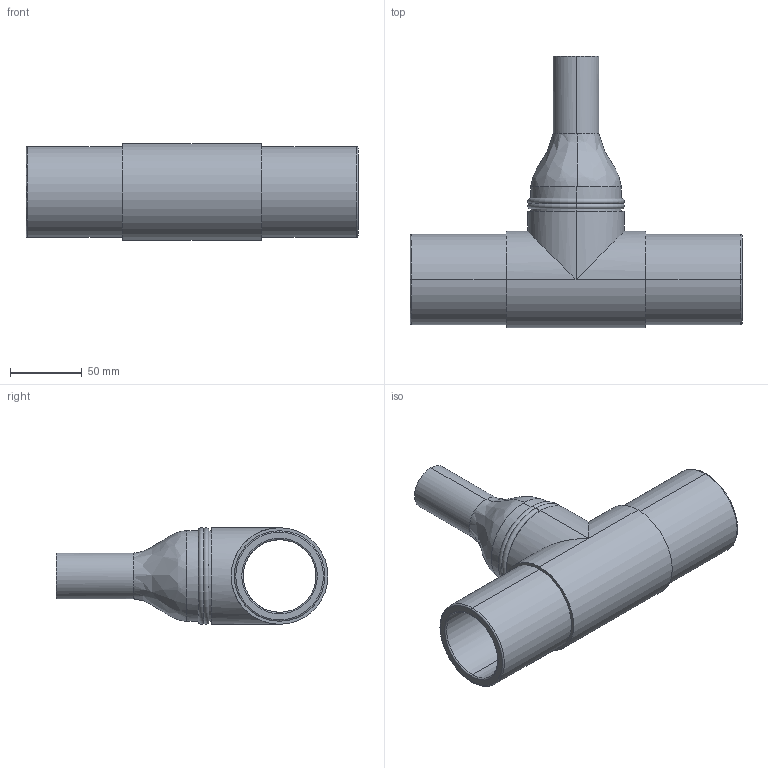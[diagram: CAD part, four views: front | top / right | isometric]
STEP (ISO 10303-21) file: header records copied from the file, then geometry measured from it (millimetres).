
FILE_DESCRIPTION (( 'STEP AP203' ), '1' );
FILE_NAME ('KP_8-63-32.step', '2011-08-08T11:40:49', ( '' ), ( '' ), 'SwSTEP 2.0', 'SolidWorks 2011', '' );
FILE_SCHEMA (( 'CONFIG_CONTROL_DESIGN' ));
Length unit declared in the file: millimetre
Products named in the file (1): KP_8-63-32
Bounding box: 231 x 189.15 x 67.3 mm (x, y, z)
Volume: 375076.7 mm3; surface area: 117945 mm2
Topology: 1 solids, 1 shells, 44 faces, 96 edges, 56 vertices
Faces by surface type: cylinder 22, torus 12, plane 6, bspline 4
Entity records: 1726 total; most frequent: CARTESIAN_POINT 700, DIRECTION 206, ORIENTED_EDGE 192, EDGE_CURVE 96, AXIS2_PLACEMENT_3D 91, VERTEX_POINT 56, CIRCLE 50, EDGE_LOOP 50
